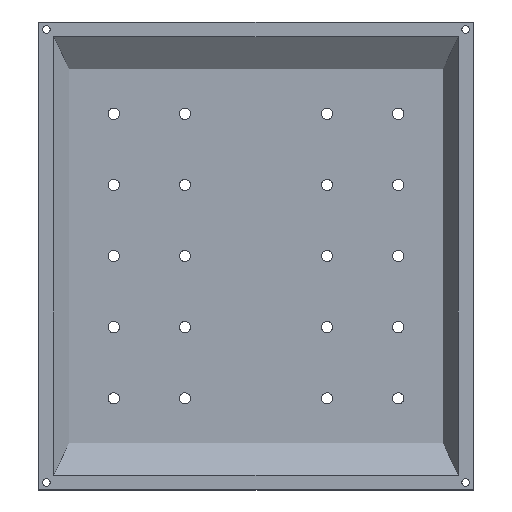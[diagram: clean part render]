
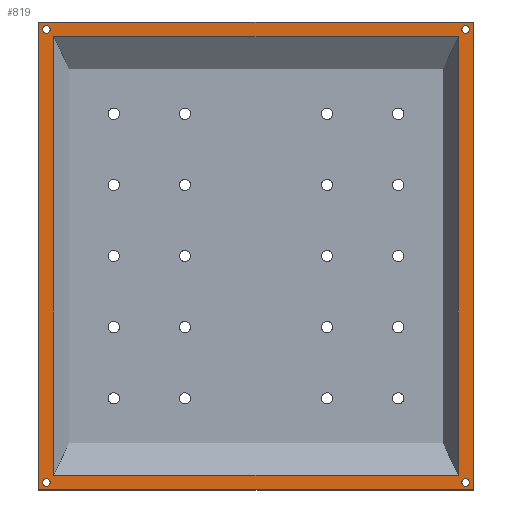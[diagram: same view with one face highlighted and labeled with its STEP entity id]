
A CAD part, top view. The second image highlights one B-rep face of the part: STEP entity #819.
In plain terms, the highlighted planar face has unit normal (0, 0, 1).
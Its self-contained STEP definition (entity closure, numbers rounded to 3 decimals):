
#16 = VECTOR ( 'NONE', #2208, 1000. ) ;
#18 = DIRECTION ( 'NONE',  ( 0., 0., 1. ) ) ;
#34 = VERTEX_POINT ( 'NONE', #1681 ) ;
#46 = VERTEX_POINT ( 'NONE', #1326 ) ;
#54 = VECTOR ( 'NONE', #1366, 1000. ) ;
#70 = CARTESIAN_POINT ( 'NONE',  ( -54., -58.5, 0. ) ) ;
#75 = VECTOR ( 'NONE', #1317, 1000. ) ;
#101 = CARTESIAN_POINT ( 'NONE',  ( 0., -62.5, 0. ) ) ;
#102 = CARTESIAN_POINT ( 'NONE',  ( -57., 60.5, 0. ) ) ;
#144 = DIRECTION ( 'NONE',  ( 1., 0., 0. ) ) ;
#157 = CARTESIAN_POINT ( 'NONE',  ( -57., -60.5, 0. ) ) ;
#158 = VERTEX_POINT ( 'NONE', #1947 ) ;
#208 = ORIENTED_EDGE ( 'NONE', *, *, #543, .T. ) ;
#225 = VERTEX_POINT ( 'NONE', #556 ) ;
#238 = AXIS2_PLACEMENT_3D ( 'NONE', #1708, #1861, #828 ) ;
#244 = LINE ( 'NONE', #467, #962 ) ;
#250 = DIRECTION ( 'NONE',  ( 1., 0., 0. ) ) ;
#298 = CARTESIAN_POINT ( 'NONE',  ( 55., 60.5, 0. ) ) ;
#309 = EDGE_CURVE ( 'NONE', #225, #1282, #719, .T. ) ;
#318 = AXIS2_PLACEMENT_3D ( 'NONE', #1541, #1343, #1521 ) ;
#325 = DIRECTION ( 'NONE',  ( 0., -1., 0. ) ) ;
#331 = VERTEX_POINT ( 'NONE', #102 ) ;
#354 = EDGE_LOOP ( 'NONE', ( #1627, #1001, #935, #1400 ) ) ;
#380 = CARTESIAN_POINT ( 'NONE',  ( 56., -60.5, 0. ) ) ;
#413 = ORIENTED_EDGE ( 'NONE', *, *, #813, .F. ) ;
#467 = CARTESIAN_POINT ( 'NONE',  ( -54., 58.5, 0. ) ) ;
#477 = EDGE_CURVE ( 'NONE', #1131, #331, #1797, .T. ) ;
#495 = VERTEX_POINT ( 'NONE', #501 ) ;
#501 = CARTESIAN_POINT ( 'NONE',  ( 58., 62.5, 0. ) ) ;
#503 = EDGE_CURVE ( 'NONE', #1899, #1737, #2252, .T. ) ;
#524 = ORIENTED_EDGE ( 'NONE', *, *, #1216, .F. ) ;
#543 = EDGE_CURVE ( 'NONE', #2085, #1293, #972, .T. ) ;
#552 = AXIS2_PLACEMENT_3D ( 'NONE', #1052, #18, #1380 ) ;
#556 = CARTESIAN_POINT ( 'NONE',  ( -55., -60.5, 0. ) ) ;
#557 = EDGE_CURVE ( 'NONE', #797, #1706, #1686, .T. ) ;
#597 = EDGE_CURVE ( 'NONE', #855, #2050, #2016, .T. ) ;
#598 = FACE_BOUND ( 'NONE', #635, .T. ) ;
#600 = CARTESIAN_POINT ( 'NONE',  ( 54., 58.5, 0. ) ) ;
#626 = DIRECTION ( 'NONE',  ( 1., 0., 0. ) ) ;
#628 = CIRCLE ( 'NONE', #552, 1. ) ;
#635 = EDGE_LOOP ( 'NONE', ( #208, #1961 ) ) ;
#641 = VECTOR ( 'NONE', #325, 1000. ) ;
#661 = CARTESIAN_POINT ( 'NONE',  ( 58., 0., 0. ) ) ;
#673 = LINE ( 'NONE', #661, #641 ) ;
#678 = DIRECTION ( 'NONE',  ( 0., 0., -1. ) ) ;
#719 = CIRCLE ( 'NONE', #902, 1. ) ;
#766 = LINE ( 'NONE', #600, #75 ) ;
#788 = EDGE_LOOP ( 'NONE', ( #1481, #1233 ) ) ;
#793 = CIRCLE ( 'NONE', #1619, 1. ) ;
#797 = VERTEX_POINT ( 'NONE', #808 ) ;
#808 = CARTESIAN_POINT ( 'NONE',  ( -58., 62.5, 0. ) ) ;
#813 = EDGE_CURVE ( 'NONE', #331, #1131, #793, .T. ) ;
#819 = ADVANCED_FACE ( 'NONE', ( #1966, #598, #1329, #1294, #1626, #1977 ), #1134, .T. ) ;
#828 = DIRECTION ( 'NONE',  ( 1., 0., 0. ) ) ;
#855 = VERTEX_POINT ( 'NONE', #1482 ) ;
#859 = EDGE_CURVE ( 'NONE', #495, #158, #673, .T. ) ;
#866 = ORIENTED_EDGE ( 'NONE', *, *, #557, .T. ) ;
#876 = DIRECTION ( 'NONE',  ( 0., 0., 1. ) ) ;
#902 = AXIS2_PLACEMENT_3D ( 'NONE', #1136, #2003, #1147 ) ;
#935 = ORIENTED_EDGE ( 'NONE', *, *, #2167, .F. ) ;
#952 = ORIENTED_EDGE ( 'NONE', *, *, #477, .F. ) ;
#961 = DIRECTION ( 'NONE',  ( -1., 0., 0. ) ) ;
#962 = VECTOR ( 'NONE', #961, 1000. ) ;
#968 = DIRECTION ( 'NONE',  ( 0., 0., 1. ) ) ;
#972 = CIRCLE ( 'NONE', #318, 1. ) ;
#974 = CARTESIAN_POINT ( 'NONE',  ( -54., 58.5, 0. ) ) ;
#991 = DIRECTION ( 'NONE',  ( 1., 0., 0. ) ) ;
#1001 = ORIENTED_EDGE ( 'NONE', *, *, #1719, .F. ) ;
#1014 = AXIS2_PLACEMENT_3D ( 'NONE', #2014, #968, #250 ) ;
#1031 = AXIS2_PLACEMENT_3D ( 'NONE', #1490, #678, #144 ) ;
#1052 = CARTESIAN_POINT ( 'NONE',  ( 56., -60.5, 0. ) ) ;
#1064 = AXIS2_PLACEMENT_3D ( 'NONE', #1323, #1827, #2196 ) ;
#1113 = DIRECTION ( 'NONE',  ( 1., 0., 0. ) ) ;
#1127 = ORIENTED_EDGE ( 'NONE', *, *, #1815, .T. ) ;
#1131 = VERTEX_POINT ( 'NONE', #1908 ) ;
#1134 = PLANE ( 'NONE',  #1014 ) ;
#1136 = CARTESIAN_POINT ( 'NONE',  ( -56., -60.5, 0. ) ) ;
#1147 = DIRECTION ( 'NONE',  ( 1., 0., 0. ) ) ;
#1211 = VECTOR ( 'NONE', #991, 1000. ) ;
#1216 = EDGE_CURVE ( 'NONE', #797, #495, #1280, .T. ) ;
#1233 = ORIENTED_EDGE ( 'NONE', *, *, #1501, .F. ) ;
#1261 = AXIS2_PLACEMENT_3D ( 'NONE', #380, #876, #1922 ) ;
#1274 = CARTESIAN_POINT ( 'NONE',  ( -58., -62.5, 0. ) ) ;
#1280 = LINE ( 'NONE', #1973, #1632 ) ;
#1282 = VERTEX_POINT ( 'NONE', #157 ) ;
#1293 = VERTEX_POINT ( 'NONE', #298 ) ;
#1294 = FACE_OUTER_BOUND ( 'NONE', #1624, .T. ) ;
#1297 = EDGE_CURVE ( 'NONE', #1293, #2085, #1781, .T. ) ;
#1307 = CARTESIAN_POINT ( 'NONE',  ( -56., 60.5, 0. ) ) ;
#1317 = DIRECTION ( 'NONE',  ( 0., 1., 0. ) ) ;
#1323 = CARTESIAN_POINT ( 'NONE',  ( -56., -60.5, 0. ) ) ;
#1326 = CARTESIAN_POINT ( 'NONE',  ( 54., -58.5, 0. ) ) ;
#1329 = FACE_BOUND ( 'NONE', #1755, .T. ) ;
#1341 = ORIENTED_EDGE ( 'NONE', *, *, #1649, .T. ) ;
#1343 = DIRECTION ( 'NONE',  ( 0., 0., -1. ) ) ;
#1366 = DIRECTION ( 'NONE',  ( 0., -1., 0. ) ) ;
#1380 = DIRECTION ( 'NONE',  ( 1., 0., 0. ) ) ;
#1400 = ORIENTED_EDGE ( 'NONE', *, *, #503, .F. ) ;
#1414 = ORIENTED_EDGE ( 'NONE', *, *, #859, .F. ) ;
#1455 = CARTESIAN_POINT ( 'NONE',  ( -54., -58.5, 0. ) ) ;
#1481 = ORIENTED_EDGE ( 'NONE', *, *, #597, .F. ) ;
#1482 = CARTESIAN_POINT ( 'NONE',  ( 57., -60.5, 0. ) ) ;
#1490 = CARTESIAN_POINT ( 'NONE',  ( 56., 60.5, 0. ) ) ;
#1501 = EDGE_CURVE ( 'NONE', #2050, #855, #628, .T. ) ;
#1521 = DIRECTION ( 'NONE',  ( 1., 0., 0. ) ) ;
#1541 = CARTESIAN_POINT ( 'NONE',  ( 56., 60.5, 0. ) ) ;
#1613 = DIRECTION ( 'NONE',  ( 1., 0., 0. ) ) ;
#1619 = AXIS2_PLACEMENT_3D ( 'NONE', #1307, #1637, #1113 ) ;
#1624 = EDGE_LOOP ( 'NONE', ( #1414, #524, #866, #1127 ) ) ;
#1626 = FACE_BOUND ( 'NONE', #788, .T. ) ;
#1627 = ORIENTED_EDGE ( 'NONE', *, *, #2078, .F. ) ;
#1632 = VECTOR ( 'NONE', #1613, 1000. ) ;
#1637 = DIRECTION ( 'NONE',  ( 0., 0., 1. ) ) ;
#1649 = EDGE_CURVE ( 'NONE', #1282, #225, #1709, .T. ) ;
#1654 = CARTESIAN_POINT ( 'NONE',  ( 57., 60.5, 0. ) ) ;
#1681 = CARTESIAN_POINT ( 'NONE',  ( 54., 58.5, 0. ) ) ;
#1686 = LINE ( 'NONE', #1902, #54 ) ;
#1699 = CARTESIAN_POINT ( 'NONE',  ( -54., 58.5, 0. ) ) ;
#1706 = VERTEX_POINT ( 'NONE', #1274 ) ;
#1708 = CARTESIAN_POINT ( 'NONE',  ( -56., 60.5, 0. ) ) ;
#1709 = CIRCLE ( 'NONE', #1064, 1. ) ;
#1719 = EDGE_CURVE ( 'NONE', #46, #34, #766, .T. ) ;
#1737 = VERTEX_POINT ( 'NONE', #70 ) ;
#1751 = VECTOR ( 'NONE', #626, 1000. ) ;
#1755 = EDGE_LOOP ( 'NONE', ( #952, #413 ) ) ;
#1781 = CIRCLE ( 'NONE', #1031, 1. ) ;
#1797 = CIRCLE ( 'NONE', #238, 1. ) ;
#1815 = EDGE_CURVE ( 'NONE', #1706, #158, #1846, .T. ) ;
#1827 = DIRECTION ( 'NONE',  ( 0., 0., -1. ) ) ;
#1846 = LINE ( 'NONE', #101, #1211 ) ;
#1861 = DIRECTION ( 'NONE',  ( 0., 0., 1. ) ) ;
#1899 = VERTEX_POINT ( 'NONE', #974 ) ;
#1902 = CARTESIAN_POINT ( 'NONE',  ( -58., 0., 0. ) ) ;
#1908 = CARTESIAN_POINT ( 'NONE',  ( -55., 60.5, 0. ) ) ;
#1922 = DIRECTION ( 'NONE',  ( 1., 0., 0. ) ) ;
#1945 = ORIENTED_EDGE ( 'NONE', *, *, #309, .T. ) ;
#1947 = CARTESIAN_POINT ( 'NONE',  ( 58., -62.5, 0. ) ) ;
#1950 = EDGE_LOOP ( 'NONE', ( #1945, #1341 ) ) ;
#1959 = CARTESIAN_POINT ( 'NONE',  ( 55., -60.5, 0. ) ) ;
#1961 = ORIENTED_EDGE ( 'NONE', *, *, #1297, .T. ) ;
#1966 = FACE_BOUND ( 'NONE', #354, .T. ) ;
#1973 = CARTESIAN_POINT ( 'NONE',  ( 0., 62.5, 0. ) ) ;
#1977 = FACE_BOUND ( 'NONE', #1950, .T. ) ;
#2003 = DIRECTION ( 'NONE',  ( 0., 0., -1. ) ) ;
#2014 = CARTESIAN_POINT ( 'NONE',  ( 0., 0., 0. ) ) ;
#2016 = CIRCLE ( 'NONE', #1261, 1. ) ;
#2050 = VERTEX_POINT ( 'NONE', #1959 ) ;
#2078 = EDGE_CURVE ( 'NONE', #34, #1899, #244, .T. ) ;
#2085 = VERTEX_POINT ( 'NONE', #1654 ) ;
#2167 = EDGE_CURVE ( 'NONE', #1737, #46, #2180, .T. ) ;
#2180 = LINE ( 'NONE', #1455, #1751 ) ;
#2196 = DIRECTION ( 'NONE',  ( 1., 0., 0. ) ) ;
#2208 = DIRECTION ( 'NONE',  ( 0., -1., 0. ) ) ;
#2252 = LINE ( 'NONE', #1699, #16 ) ;
